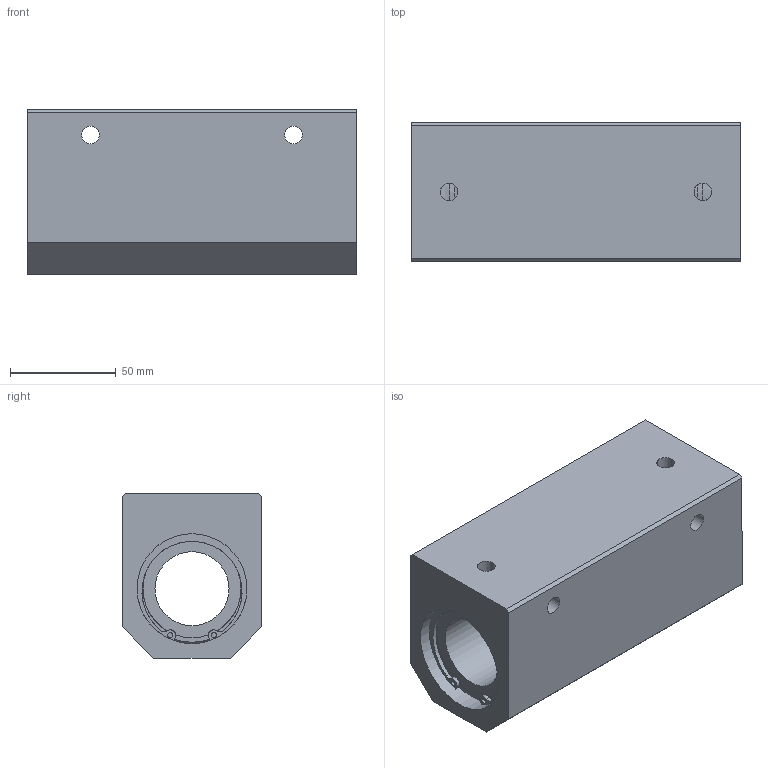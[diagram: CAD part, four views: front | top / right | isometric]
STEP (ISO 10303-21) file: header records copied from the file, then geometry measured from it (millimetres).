
FILE_DESCRIPTION((''),'2;1');
FILE_NAME('D:\製品 (図面)\カタログ用3D\リニアベアリング関連(改)\STEP形式\CHW\CHW35.stp','2010-01-25T09:41:53',('Tsuchiya'),(''),'Autodesk Inventor 10','Autodesk Inventor 10','');
FILE_SCHEMA(('AUTOMOTIVE_DESIGN { 1 0 10303 214 1 1 1 1 }'));
Length unit declared in the file: millimetre
Products named in the file (1): CHW35
Bounding box: 156 x 66 x 78 mm (x, y, z)
Volume: 585426.3 mm3; surface area: 80855.3 mm2
Topology: 1 solids, 4 shells, 92 faces, 241 edges, 147 vertices
Faces by surface type: bspline 41, plane 28, cylinder 21, torus 2
Full cylindrical faces by diameter (mm): 2.5 x2, 35 x1, 46.4 x2, 49 x2, 52 x5
Entity records: 3108 total; most frequent: CARTESIAN_POINT 1046, DIRECTION 422, ORIENTED_EDGE 390, EDGE_CURVE 195, AXIS2_PLACEMENT_3D 185, EDGE_LOOP 148, CIRCLE 133, VERTEX_POINT 131
